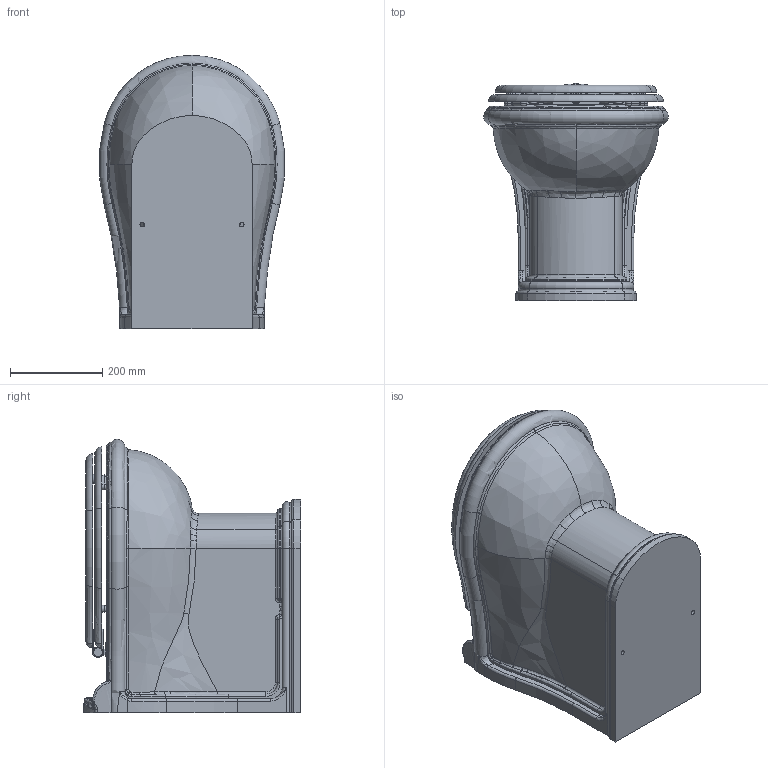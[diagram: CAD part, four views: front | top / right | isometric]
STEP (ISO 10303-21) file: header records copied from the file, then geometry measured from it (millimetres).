
FILE_DESCRIPTION (( 'STEP AP214' ), '1' );
FILE_NAME ('JUB110_P JC1800.STEP', '2017-12-12T06:37:55', ( '' ), ( '' ), 'SwSTEP 2.0', 'SolidWorks 2018', '' );
FILE_SCHEMA (( 'AUTOMOTIVE_DESIGN' ));
Length unit declared in the file: millimetre
Products named in the file (3): JUB110_P JC1800; JC1800; JUB110_P
Assembly tree (2 placements, depth 2):
  JUB110_P JC1800
    JUB110_P
    JC1800
Bounding box: 399.57 x 470 x 591.03 mm (x, y, z)
Volume: 38869209.9 mm3; surface area: 1663247.8 mm2
Topology: 2 solids, 2 shells, 614 faces, 1481 edges, 861 vertices
Faces by surface type: bspline 258, cylinder 137, plane 104, torus 97, sphere 12, cone 6
Full cylindrical faces by diameter (mm): 10 x2, 16 x2, 20 x2, 30 x2, 55 x1, 100 x1
Entity records: 41652 total; most frequent: CARTESIAN_POINT 29383, ORIENTED_EDGE 2878, DIRECTION 2089, EDGE_CURVE 1439, AXIS2_PLACEMENT_3D 893, VERTEX_POINT 855, EDGE_LOOP 656, FACE_OUTER_BOUND 628
